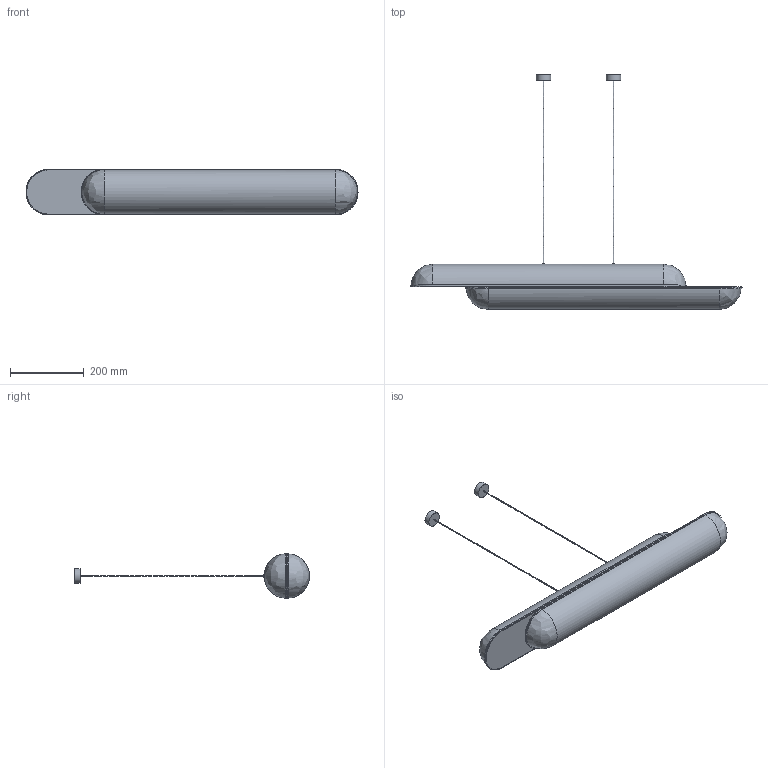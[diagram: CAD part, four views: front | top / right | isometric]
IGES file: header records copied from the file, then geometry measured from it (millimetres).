
Global section: file name: GEMINI HORIZONTAL; native system: Autodesk Inventor 2023; preprocessor: unknown; author: Alex Brigg; date: 20240518.001151; units: millimetre
Bounding box: 901.31 x 637.91 x 124 mm (x, y, z)
Volume: 8356610.5 mm3; surface area: 856855.5 mm2
Topology: 10 solids, 10 shells, 61 faces, 127 edges, 80 vertices
Faces by surface type: bspline 61
